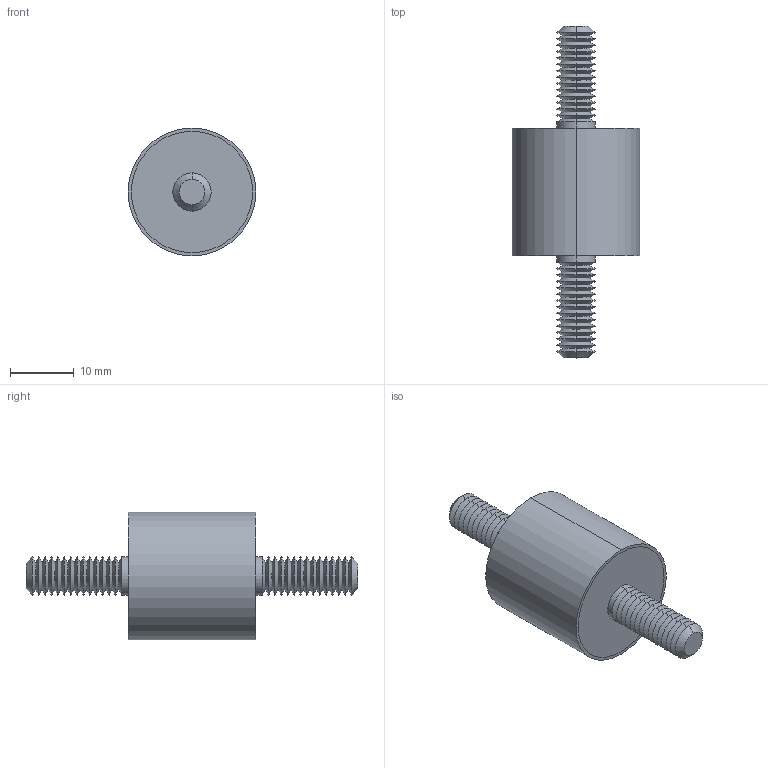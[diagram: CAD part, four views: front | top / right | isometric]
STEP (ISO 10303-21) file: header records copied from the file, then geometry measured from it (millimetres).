
FILE_DESCRIPTION (( 'STEP AP203' ), '1' );
FILE_NAME ('61040.W0205.step', '2019-09-24T22:30:47', ( '' ), ( '' ), 'SwSTEP 2.0', 'SolidWorks 2017', '' );
FILE_SCHEMA (( 'CONFIG_CONTROL_DESIGN' ));
Length unit declared in the file: millimetre
Products named in the file (4): Part3_61040.W0205; Part2_61040.W0205; 61040.W0205; Part1_61040.W0205
Assembly tree (3 placements, depth 2):
  61040.W0205
    Part1_61040.W0205
    Part2_61040.W0205
    Part3_61040.W0205
Bounding box: 20 x 52 x 20 mm (x, y, z)
Volume: 6964.7 mm3; surface area: 4211.8 mm2
Topology: 3 solids, 3 shells, 140 faces, 274 edges, 144 vertices
Faces by surface type: cone 116, cylinder 14, plane 10
Entity records: 3908 total; most frequent: DIRECTION 710, CARTESIAN_POINT 564, ORIENTED_EDGE 548, AXIS2_PLACEMENT_3D 290, EDGE_CURVE 274, CIRCLE 144, VERTEX_POINT 144, EDGE_LOOP 144
